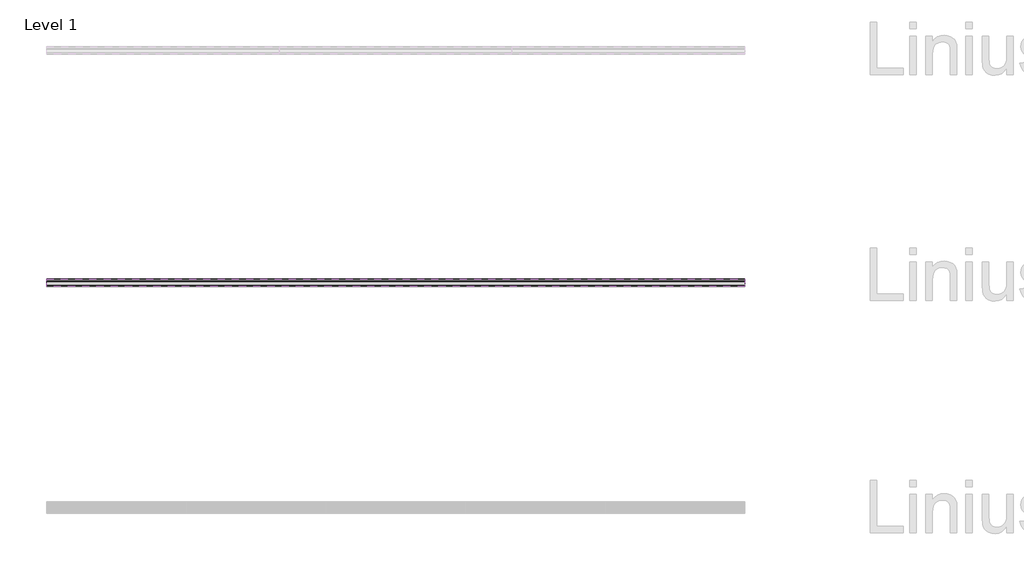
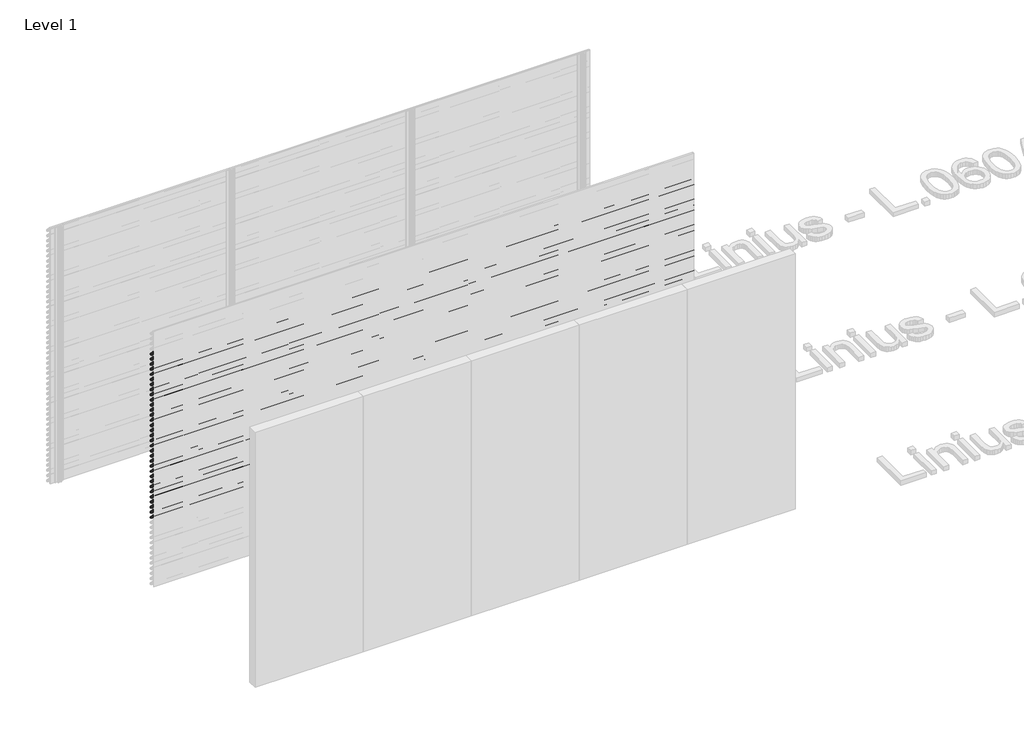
# One storey, part 32 of 153: 33 proxies.
"""IFC4 building model written with IfcOpenShell, lengths in millimetres."""

from ifc_helpers import new_model, si_unit, point, frame, frame_2d, origin, place, context, project, spatial, polyline, circle_curve, trimmed, segment, composite_curve, outline, extrude, element, save

model = new_model("IFC4")

# Units and contexts
model_context = context("Model", 3, world=origin())
ifc_project = project(units=[si_unit("LENGTHUNIT", "METRE", prefix="MILLI")], contexts=[model_context])

# Site, building, storey
site = spatial("IfcSite", under=ifc_project)
building = spatial("IfcBuilding", under=site)
storey = spatial("IfcBuildingStorey", under=building, Name="Level 1", Elevation=0.0)

# Proxies
placement = place(None, origin())
element("IfcBuildingElementProxy", 1, Name="Wall Sweeps", at=placement, inside=storey, context=model_context, shape_type="SweptSolid", body=[
    extrude(outline(composite_curve([segment(polyline([(4989.0270068, 2760.0), (5003.8471842, 2758.7034025), (5053.0270068, 2705.0102749), (5053.0270068, 2693.6108187)]), True, "CONTINUOUS"), segment(trimmed(circle_curve(frame_2d((5049.7613584, 2693.897153)), 3.2781774), [point((5053.0270068, 2693.6108187))], [point((5050.4369373, 2690.6893438))], False, "CARTESIAN"), True, "CONTINUOUS"), segment(polyline([(5050.4369373, 2690.6893438), (5038.1625655, 2691.6282758), (4989.0270068, 2745.2730773), (4989.0270068, 2760.0)]), True, "CONTINUOUS")], self_intersect=False), holes=[composite_curve([segment(polyline([(5003.1351705, 2757.2599659), (4990.5270068, 2758.3630372), (4990.5270068, 2745.856213), (5038.8681968, 2693.0786805), (5050.3042474, 2692.2038762)]), True, "CONTINUOUS"), segment(trimmed(circle_curve(frame_2d((5049.7613584, 2693.897153)), 1.7781774), [point((5050.3042474, 2692.2038762))], [point((5051.5270068, 2693.6864389))], True, "CARTESIAN"), True, "CONTINUOUS"), segment(polyline([(5051.5270068, 2693.6864389), (5051.5270068, 2704.4271392), (5003.1351705, 2757.2599659)]), True, "CONTINUOUS")], self_intersect=False)]), frame((44966.6208097, 0.0, 0.0), z_axis=(1.0, 0.0, 0.0), x_axis=(0.0, 1.0, 0.0)), (0.0, 0.0, 1.0), 6000.0),
])
element("IfcBuildingElementProxy", 2, Name="Wall Sweeps", at=placement, inside=storey, context=model_context, shape_type="SweptSolid", body=[
    extrude(outline(composite_curve([segment(polyline([(4989.0270068, 2700.0), (5003.8471842, 2698.7034025), (5053.0270068, 2645.0102749), (5053.0270068, 2633.6108187)]), True, "CONTINUOUS"), segment(trimmed(circle_curve(frame_2d((5049.7613584, 2633.897153)), 3.2781774), [point((5053.0270068, 2633.6108187))], [point((5050.4369373, 2630.6893438))], False, "CARTESIAN"), True, "CONTINUOUS"), segment(polyline([(5050.4369373, 2630.6893438), (5038.1625655, 2631.6282758), (4989.0270068, 2685.2730773), (4989.0270068, 2700.0)]), True, "CONTINUOUS")], self_intersect=False), holes=[composite_curve([segment(polyline([(5003.1351705, 2697.2599659), (4990.5270068, 2698.3630372), (4990.5270068, 2685.856213), (5038.8681968, 2633.0786805), (5050.3042474, 2632.2038762)]), True, "CONTINUOUS"), segment(trimmed(circle_curve(frame_2d((5049.7613584, 2633.897153)), 1.7781774), [point((5050.3042474, 2632.2038762))], [point((5051.5270068, 2633.6864389))], True, "CARTESIAN"), True, "CONTINUOUS"), segment(polyline([(5051.5270068, 2633.6864389), (5051.5270068, 2644.4271392), (5003.1351705, 2697.2599659)]), True, "CONTINUOUS")], self_intersect=False)]), frame((44966.6208097, 0.0, 0.0), z_axis=(1.0, 0.0, 0.0), x_axis=(0.0, 1.0, 0.0)), (0.0, 0.0, 1.0), 6000.0),
])
element("IfcBuildingElementProxy", 3, Name="Wall Sweeps", at=placement, inside=storey, context=model_context, shape_type="SweptSolid", body=[
    extrude(outline(composite_curve([segment(polyline([(4989.0270068, 2640.0), (5003.8471842, 2638.7034025), (5053.0270068, 2585.0102749), (5053.0270068, 2573.6108187)]), True, "CONTINUOUS"), segment(trimmed(circle_curve(frame_2d((5049.7613584, 2573.897153)), 3.2781774), [point((5053.0270068, 2573.6108187))], [point((5050.4369373, 2570.6893438))], False, "CARTESIAN"), True, "CONTINUOUS"), segment(polyline([(5050.4369373, 2570.6893438), (5038.1625655, 2571.6282758), (4989.0270068, 2625.2730773), (4989.0270068, 2640.0)]), True, "CONTINUOUS")], self_intersect=False), holes=[composite_curve([segment(polyline([(5003.1351705, 2637.2599659), (4990.5270068, 2638.3630372), (4990.5270068, 2625.856213), (5038.8681968, 2573.0786805), (5050.3042474, 2572.2038762)]), True, "CONTINUOUS"), segment(trimmed(circle_curve(frame_2d((5049.7613584, 2573.897153)), 1.7781774), [point((5050.3042474, 2572.2038762))], [point((5051.5270068, 2573.6864389))], True, "CARTESIAN"), True, "CONTINUOUS"), segment(polyline([(5051.5270068, 2573.6864389), (5051.5270068, 2584.4271392), (5003.1351705, 2637.2599659)]), True, "CONTINUOUS")], self_intersect=False)]), frame((44966.6208097, 0.0, 0.0), z_axis=(1.0, 0.0, 0.0), x_axis=(0.0, 1.0, 0.0)), (0.0, 0.0, 1.0), 6000.0),
])
element("IfcBuildingElementProxy", 4, Name="Wall Sweeps", at=placement, inside=storey, context=model_context, shape_type="SweptSolid", body=[
    extrude(outline(composite_curve([segment(polyline([(4989.0270068, 2580.0), (5003.8471842, 2578.7034025), (5053.0270068, 2525.0102749), (5053.0270068, 2513.6108187)]), True, "CONTINUOUS"), segment(trimmed(circle_curve(frame_2d((5049.7613584, 2513.897153)), 3.2781774), [point((5053.0270068, 2513.6108187))], [point((5050.4369373, 2510.6893438))], False, "CARTESIAN"), True, "CONTINUOUS"), segment(polyline([(5050.4369373, 2510.6893438), (5038.1625655, 2511.6282758), (4989.0270068, 2565.2730773), (4989.0270068, 2580.0)]), True, "CONTINUOUS")], self_intersect=False), holes=[composite_curve([segment(polyline([(5003.1351705, 2577.2599659), (4990.5270068, 2578.3630372), (4990.5270068, 2565.856213), (5038.8681968, 2513.0786805), (5050.3042474, 2512.2038762)]), True, "CONTINUOUS"), segment(trimmed(circle_curve(frame_2d((5049.7613584, 2513.897153)), 1.7781774), [point((5050.3042474, 2512.2038762))], [point((5051.5270068, 2513.6864389))], True, "CARTESIAN"), True, "CONTINUOUS"), segment(polyline([(5051.5270068, 2513.6864389), (5051.5270068, 2524.4271392), (5003.1351705, 2577.2599659)]), True, "CONTINUOUS")], self_intersect=False)]), frame((44966.6208097, 0.0, 0.0), z_axis=(1.0, 0.0, 0.0), x_axis=(0.0, 1.0, 0.0)), (0.0, 0.0, 1.0), 6000.0),
])
element("IfcBuildingElementProxy", 5, Name="Wall Sweeps", at=placement, inside=storey, context=model_context, shape_type="SweptSolid", body=[
    extrude(outline(composite_curve([segment(polyline([(4989.0270068, 2520.0), (5003.8471842, 2518.7034025), (5053.0270068, 2465.0102749), (5053.0270068, 2453.6108187)]), True, "CONTINUOUS"), segment(trimmed(circle_curve(frame_2d((5049.7613584, 2453.897153)), 3.2781774), [point((5053.0270068, 2453.6108187))], [point((5050.4369373, 2450.6893438))], False, "CARTESIAN"), True, "CONTINUOUS"), segment(polyline([(5050.4369373, 2450.6893438), (5038.1625655, 2451.6282758), (4989.0270068, 2505.2730773), (4989.0270068, 2520.0)]), True, "CONTINUOUS")], self_intersect=False), holes=[composite_curve([segment(polyline([(5003.1351705, 2517.2599659), (4990.5270068, 2518.3630372), (4990.5270068, 2505.856213), (5038.8681968, 2453.0786805), (5050.3042474, 2452.2038762)]), True, "CONTINUOUS"), segment(trimmed(circle_curve(frame_2d((5049.7613584, 2453.897153)), 1.7781774), [point((5050.3042474, 2452.2038762))], [point((5051.5270068, 2453.6864389))], True, "CARTESIAN"), True, "CONTINUOUS"), segment(polyline([(5051.5270068, 2453.6864389), (5051.5270068, 2464.4271392), (5003.1351705, 2517.2599659)]), True, "CONTINUOUS")], self_intersect=False)]), frame((44966.6208097, 0.0, 0.0), z_axis=(1.0, 0.0, 0.0), x_axis=(0.0, 1.0, 0.0)), (0.0, 0.0, 1.0), 6000.0),
])
element("IfcBuildingElementProxy", 6, Name="Wall Sweeps", at=placement, inside=storey, context=model_context, shape_type="SweptSolid", body=[
    extrude(outline(composite_curve([segment(polyline([(4989.0270068, 2460.0), (5003.8471842, 2458.7034025), (5053.0270068, 2405.0102749), (5053.0270068, 2393.6108187)]), True, "CONTINUOUS"), segment(trimmed(circle_curve(frame_2d((5049.7613584, 2393.897153)), 3.2781774), [point((5053.0270068, 2393.6108187))], [point((5050.4369373, 2390.6893438))], False, "CARTESIAN"), True, "CONTINUOUS"), segment(polyline([(5050.4369373, 2390.6893438), (5038.1625655, 2391.6282758), (4989.0270068, 2445.2730773), (4989.0270068, 2460.0)]), True, "CONTINUOUS")], self_intersect=False), holes=[composite_curve([segment(polyline([(5003.1351705, 2457.2599659), (4990.5270068, 2458.3630372), (4990.5270068, 2445.856213), (5038.8681968, 2393.0786805), (5050.3042474, 2392.2038762)]), True, "CONTINUOUS"), segment(trimmed(circle_curve(frame_2d((5049.7613584, 2393.897153)), 1.7781774), [point((5050.3042474, 2392.2038762))], [point((5051.5270068, 2393.6864389))], True, "CARTESIAN"), True, "CONTINUOUS"), segment(polyline([(5051.5270068, 2393.6864389), (5051.5270068, 2404.4271392), (5003.1351705, 2457.2599659)]), True, "CONTINUOUS")], self_intersect=False)]), frame((44966.6208097, 0.0, 0.0), z_axis=(1.0, 0.0, 0.0), x_axis=(0.0, 1.0, 0.0)), (0.0, 0.0, 1.0), 6000.0),
])
element("IfcBuildingElementProxy", 7, Name="Wall Sweeps", at=placement, inside=storey, context=model_context, shape_type="SweptSolid", body=[
    extrude(outline(composite_curve([segment(polyline([(4989.0270068, 2400.0), (5003.8471842, 2398.7034025), (5053.0270068, 2345.0102749), (5053.0270068, 2333.6108187)]), True, "CONTINUOUS"), segment(trimmed(circle_curve(frame_2d((5049.7613584, 2333.897153)), 3.2781774), [point((5053.0270068, 2333.6108187))], [point((5050.4369373, 2330.6893438))], False, "CARTESIAN"), True, "CONTINUOUS"), segment(polyline([(5050.4369373, 2330.6893438), (5038.1625655, 2331.6282758), (4989.0270068, 2385.2730773), (4989.0270068, 2400.0)]), True, "CONTINUOUS")], self_intersect=False), holes=[composite_curve([segment(polyline([(5003.1351705, 2397.2599659), (4990.5270068, 2398.3630372), (4990.5270068, 2385.856213), (5038.8681968, 2333.0786805), (5050.3042474, 2332.2038762)]), True, "CONTINUOUS"), segment(trimmed(circle_curve(frame_2d((5049.7613584, 2333.897153)), 1.7781774), [point((5050.3042474, 2332.2038762))], [point((5051.5270068, 2333.6864389))], True, "CARTESIAN"), True, "CONTINUOUS"), segment(polyline([(5051.5270068, 2333.6864389), (5051.5270068, 2344.4271392), (5003.1351705, 2397.2599659)]), True, "CONTINUOUS")], self_intersect=False)]), frame((44966.6208097, 0.0, 0.0), z_axis=(1.0, 0.0, 0.0), x_axis=(0.0, 1.0, 0.0)), (0.0, 0.0, 1.0), 6000.0),
])
element("IfcBuildingElementProxy", 8, Name="Wall Sweeps", at=placement, inside=storey, context=model_context, shape_type="SweptSolid", body=[
    extrude(outline(composite_curve([segment(polyline([(4989.0270068, 2340.0), (5003.8471842, 2338.7034025), (5053.0270068, 2285.0102749), (5053.0270068, 2273.6108187)]), True, "CONTINUOUS"), segment(trimmed(circle_curve(frame_2d((5049.7613584, 2273.897153)), 3.2781774), [point((5053.0270068, 2273.6108187))], [point((5050.4369373, 2270.6893438))], False, "CARTESIAN"), True, "CONTINUOUS"), segment(polyline([(5050.4369373, 2270.6893438), (5038.1625655, 2271.6282758), (4989.0270068, 2325.2730773), (4989.0270068, 2340.0)]), True, "CONTINUOUS")], self_intersect=False), holes=[composite_curve([segment(polyline([(5003.1351705, 2337.2599659), (4990.5270068, 2338.3630372), (4990.5270068, 2325.856213), (5038.8681968, 2273.0786805), (5050.3042474, 2272.2038762)]), True, "CONTINUOUS"), segment(trimmed(circle_curve(frame_2d((5049.7613584, 2273.897153)), 1.7781774), [point((5050.3042474, 2272.2038762))], [point((5051.5270068, 2273.6864389))], True, "CARTESIAN"), True, "CONTINUOUS"), segment(polyline([(5051.5270068, 2273.6864389), (5051.5270068, 2284.4271392), (5003.1351705, 2337.2599659)]), True, "CONTINUOUS")], self_intersect=False)]), frame((44966.6208097, 0.0, 0.0), z_axis=(1.0, 0.0, 0.0), x_axis=(0.0, 1.0, 0.0)), (0.0, 0.0, 1.0), 6000.0),
])
element("IfcBuildingElementProxy", 9, Name="Wall Sweeps", at=placement, inside=storey, context=model_context, shape_type="SweptSolid", body=[
    extrude(outline(composite_curve([segment(polyline([(4989.0270068, 2280.0), (5003.8471842, 2278.7034025), (5053.0270068, 2225.0102749), (5053.0270068, 2213.6108187)]), True, "CONTINUOUS"), segment(trimmed(circle_curve(frame_2d((5049.7613584, 2213.897153)), 3.2781774), [point((5053.0270068, 2213.6108187))], [point((5050.4369373, 2210.6893438))], False, "CARTESIAN"), True, "CONTINUOUS"), segment(polyline([(5050.4369373, 2210.6893438), (5038.1625655, 2211.6282758), (4989.0270068, 2265.2730773), (4989.0270068, 2280.0)]), True, "CONTINUOUS")], self_intersect=False), holes=[composite_curve([segment(polyline([(5003.1351705, 2277.2599659), (4990.5270068, 2278.3630372), (4990.5270068, 2265.856213), (5038.8681968, 2213.0786805), (5050.3042474, 2212.2038762)]), True, "CONTINUOUS"), segment(trimmed(circle_curve(frame_2d((5049.7613584, 2213.897153)), 1.7781774), [point((5050.3042474, 2212.2038762))], [point((5051.5270068, 2213.6864389))], True, "CARTESIAN"), True, "CONTINUOUS"), segment(polyline([(5051.5270068, 2213.6864389), (5051.5270068, 2224.4271392), (5003.1351705, 2277.2599659)]), True, "CONTINUOUS")], self_intersect=False)]), frame((44966.6208097, 0.0, 0.0), z_axis=(1.0, 0.0, 0.0), x_axis=(0.0, 1.0, 0.0)), (0.0, 0.0, 1.0), 6000.0),
])
element("IfcBuildingElementProxy", 10, Name="Wall Sweeps", at=placement, inside=storey, context=model_context, shape_type="SweptSolid", body=[
    extrude(outline(composite_curve([segment(polyline([(4989.0270068, 2220.0), (5003.8471842, 2218.7034025), (5053.0270068, 2165.0102749), (5053.0270068, 2153.6108187)]), True, "CONTINUOUS"), segment(trimmed(circle_curve(frame_2d((5049.7613584, 2153.897153)), 3.2781774), [point((5053.0270068, 2153.6108187))], [point((5050.4369373, 2150.6893438))], False, "CARTESIAN"), True, "CONTINUOUS"), segment(polyline([(5050.4369373, 2150.6893438), (5038.1625655, 2151.6282758), (4989.0270068, 2205.2730773), (4989.0270068, 2220.0)]), True, "CONTINUOUS")], self_intersect=False), holes=[composite_curve([segment(polyline([(5003.1351705, 2217.2599659), (4990.5270068, 2218.3630372), (4990.5270068, 2205.856213), (5038.8681968, 2153.0786805), (5050.3042474, 2152.2038762)]), True, "CONTINUOUS"), segment(trimmed(circle_curve(frame_2d((5049.7613584, 2153.897153)), 1.7781774), [point((5050.3042474, 2152.2038762))], [point((5051.5270068, 2153.6864389))], True, "CARTESIAN"), True, "CONTINUOUS"), segment(polyline([(5051.5270068, 2153.6864389), (5051.5270068, 2164.4271392), (5003.1351705, 2217.2599659)]), True, "CONTINUOUS")], self_intersect=False)]), frame((44966.6208097, 0.0, 0.0), z_axis=(1.0, 0.0, 0.0), x_axis=(0.0, 1.0, 0.0)), (0.0, 0.0, 1.0), 6000.0),
])
element("IfcBuildingElementProxy", 11, Name="Wall Sweeps", at=placement, inside=storey, context=model_context, shape_type="SweptSolid", body=[
    extrude(outline(composite_curve([segment(polyline([(4989.0270068, 2160.0), (5003.8471842, 2158.7034025), (5053.0270068, 2105.0102749), (5053.0270068, 2093.6108187)]), True, "CONTINUOUS"), segment(trimmed(circle_curve(frame_2d((5049.7613584, 2093.897153)), 3.2781774), [point((5053.0270068, 2093.6108187))], [point((5050.4369373, 2090.6893438))], False, "CARTESIAN"), True, "CONTINUOUS"), segment(polyline([(5050.4369373, 2090.6893438), (5038.1625655, 2091.6282758), (4989.0270068, 2145.2730773), (4989.0270068, 2160.0)]), True, "CONTINUOUS")], self_intersect=False), holes=[composite_curve([segment(polyline([(5003.1351705, 2157.2599659), (4990.5270068, 2158.3630372), (4990.5270068, 2145.856213), (5038.8681968, 2093.0786805), (5050.3042474, 2092.2038762)]), True, "CONTINUOUS"), segment(trimmed(circle_curve(frame_2d((5049.7613584, 2093.897153)), 1.7781774), [point((5050.3042474, 2092.2038762))], [point((5051.5270068, 2093.6864389))], True, "CARTESIAN"), True, "CONTINUOUS"), segment(polyline([(5051.5270068, 2093.6864389), (5051.5270068, 2104.4271392), (5003.1351705, 2157.2599659)]), True, "CONTINUOUS")], self_intersect=False)]), frame((44966.6208097, 0.0, 0.0), z_axis=(1.0, 0.0, 0.0), x_axis=(0.0, 1.0, 0.0)), (0.0, 0.0, 1.0), 6000.0),
])
element("IfcBuildingElementProxy", 12, Name="Wall Sweeps", at=placement, inside=storey, context=model_context, shape_type="SweptSolid", body=[
    extrude(outline(composite_curve([segment(polyline([(4989.0270068, 2100.0), (5003.8471842, 2098.7034025), (5053.0270068, 2045.0102749), (5053.0270068, 2033.6108187)]), True, "CONTINUOUS"), segment(trimmed(circle_curve(frame_2d((5049.7613584, 2033.897153)), 3.2781774), [point((5053.0270068, 2033.6108187))], [point((5050.4369373, 2030.6893438))], False, "CARTESIAN"), True, "CONTINUOUS"), segment(polyline([(5050.4369373, 2030.6893438), (5038.1625655, 2031.6282758), (4989.0270068, 2085.2730773), (4989.0270068, 2100.0)]), True, "CONTINUOUS")], self_intersect=False), holes=[composite_curve([segment(polyline([(5003.1351705, 2097.2599659), (4990.5270068, 2098.3630372), (4990.5270068, 2085.856213), (5038.8681968, 2033.0786805), (5050.3042474, 2032.2038762)]), True, "CONTINUOUS"), segment(trimmed(circle_curve(frame_2d((5049.7613584, 2033.897153)), 1.7781774), [point((5050.3042474, 2032.2038762))], [point((5051.5270068, 2033.6864389))], True, "CARTESIAN"), True, "CONTINUOUS"), segment(polyline([(5051.5270068, 2033.6864389), (5051.5270068, 2044.4271392), (5003.1351705, 2097.2599659)]), True, "CONTINUOUS")], self_intersect=False)]), frame((44966.6208097, 0.0, 0.0), z_axis=(1.0, 0.0, 0.0), x_axis=(0.0, 1.0, 0.0)), (0.0, 0.0, 1.0), 6000.0),
])
element("IfcBuildingElementProxy", 13, Name="Wall Sweeps", at=placement, inside=storey, context=model_context, shape_type="SweptSolid", body=[
    extrude(outline(composite_curve([segment(polyline([(4989.0270068, 2040.0), (5003.8471842, 2038.7034025), (5053.0270068, 1985.0102749), (5053.0270068, 1973.6108187)]), True, "CONTINUOUS"), segment(trimmed(circle_curve(frame_2d((5049.7613584, 1973.897153)), 3.2781774), [point((5053.0270068, 1973.6108187))], [point((5050.4369373, 1970.6893438))], False, "CARTESIAN"), True, "CONTINUOUS"), segment(polyline([(5050.4369373, 1970.6893438), (5038.1625655, 1971.6282758), (4989.0270068, 2025.2730773), (4989.0270068, 2040.0)]), True, "CONTINUOUS")], self_intersect=False), holes=[composite_curve([segment(polyline([(5003.1351705, 2037.2599659), (4990.5270068, 2038.3630372), (4990.5270068, 2025.856213), (5038.8681968, 1973.0786805), (5050.3042474, 1972.2038762)]), True, "CONTINUOUS"), segment(trimmed(circle_curve(frame_2d((5049.7613584, 1973.897153)), 1.7781774), [point((5050.3042474, 1972.2038762))], [point((5051.5270068, 1973.6864389))], True, "CARTESIAN"), True, "CONTINUOUS"), segment(polyline([(5051.5270068, 1973.6864389), (5051.5270068, 1984.4271392), (5003.1351705, 2037.2599659)]), True, "CONTINUOUS")], self_intersect=False)]), frame((44966.6208097, 0.0, 0.0), z_axis=(1.0, 0.0, 0.0), x_axis=(0.0, 1.0, 0.0)), (0.0, 0.0, 1.0), 6000.0),
])
element("IfcBuildingElementProxy", 14, Name="Wall Sweeps", at=placement, inside=storey, context=model_context, shape_type="SweptSolid", body=[
    extrude(outline(composite_curve([segment(polyline([(4989.0270068, 1980.0), (5003.8471842, 1978.7034025), (5053.0270068, 1925.0102749), (5053.0270068, 1913.6108187)]), True, "CONTINUOUS"), segment(trimmed(circle_curve(frame_2d((5049.7613584, 1913.897153)), 3.2781774), [point((5053.0270068, 1913.6108187))], [point((5050.4369373, 1910.6893438))], False, "CARTESIAN"), True, "CONTINUOUS"), segment(polyline([(5050.4369373, 1910.6893438), (5038.1625655, 1911.6282758), (4989.0270068, 1965.2730773), (4989.0270068, 1980.0)]), True, "CONTINUOUS")], self_intersect=False), holes=[composite_curve([segment(polyline([(5003.1351705, 1977.2599659), (4990.5270068, 1978.3630372), (4990.5270068, 1965.856213), (5038.8681968, 1913.0786805), (5050.3042474, 1912.2038762)]), True, "CONTINUOUS"), segment(trimmed(circle_curve(frame_2d((5049.7613584, 1913.897153)), 1.7781774), [point((5050.3042474, 1912.2038762))], [point((5051.5270068, 1913.6864389))], True, "CARTESIAN"), True, "CONTINUOUS"), segment(polyline([(5051.5270068, 1913.6864389), (5051.5270068, 1924.4271392), (5003.1351705, 1977.2599659)]), True, "CONTINUOUS")], self_intersect=False)]), frame((44966.6208097, 0.0, 0.0), z_axis=(1.0, 0.0, 0.0), x_axis=(0.0, 1.0, 0.0)), (0.0, 0.0, 1.0), 6000.0),
])
element("IfcBuildingElementProxy", 15, Name="Wall Sweeps", at=placement, inside=storey, context=model_context, shape_type="SweptSolid", body=[
    extrude(outline(composite_curve([segment(polyline([(4989.0270068, 1920.0), (5003.8471842, 1918.7034025), (5053.0270068, 1865.0102749), (5053.0270068, 1853.6108187)]), True, "CONTINUOUS"), segment(trimmed(circle_curve(frame_2d((5049.7613584, 1853.897153)), 3.2781774), [point((5053.0270068, 1853.6108187))], [point((5050.4369373, 1850.6893438))], False, "CARTESIAN"), True, "CONTINUOUS"), segment(polyline([(5050.4369373, 1850.6893438), (5038.1625655, 1851.6282758), (4989.0270068, 1905.2730773), (4989.0270068, 1920.0)]), True, "CONTINUOUS")], self_intersect=False), holes=[composite_curve([segment(polyline([(5003.1351705, 1917.2599659), (4990.5270068, 1918.3630372), (4990.5270068, 1905.856213), (5038.8681968, 1853.0786805), (5050.3042474, 1852.2038762)]), True, "CONTINUOUS"), segment(trimmed(circle_curve(frame_2d((5049.7613584, 1853.897153)), 1.7781774), [point((5050.3042474, 1852.2038762))], [point((5051.5270068, 1853.6864389))], True, "CARTESIAN"), True, "CONTINUOUS"), segment(polyline([(5051.5270068, 1853.6864389), (5051.5270068, 1864.4271392), (5003.1351705, 1917.2599659)]), True, "CONTINUOUS")], self_intersect=False)]), frame((44966.6208097, 0.0, 0.0), z_axis=(1.0, 0.0, 0.0), x_axis=(0.0, 1.0, 0.0)), (0.0, 0.0, 1.0), 6000.0),
])
element("IfcBuildingElementProxy", 16, Name="Wall Sweeps", at=placement, inside=storey, context=model_context, shape_type="SweptSolid", body=[
    extrude(outline(composite_curve([segment(polyline([(4989.0270068, 1860.0), (5003.8471842, 1858.7034025), (5053.0270068, 1805.0102749), (5053.0270068, 1793.6108187)]), True, "CONTINUOUS"), segment(trimmed(circle_curve(frame_2d((5049.7613584, 1793.897153)), 3.2781774), [point((5053.0270068, 1793.6108187))], [point((5050.4369373, 1790.6893438))], False, "CARTESIAN"), True, "CONTINUOUS"), segment(polyline([(5050.4369373, 1790.6893438), (5038.1625655, 1791.6282758), (4989.0270068, 1845.2730773), (4989.0270068, 1860.0)]), True, "CONTINUOUS")], self_intersect=False), holes=[composite_curve([segment(polyline([(5003.1351705, 1857.2599659), (4990.5270068, 1858.3630372), (4990.5270068, 1845.856213), (5038.8681968, 1793.0786805), (5050.3042474, 1792.2038762)]), True, "CONTINUOUS"), segment(trimmed(circle_curve(frame_2d((5049.7613584, 1793.897153)), 1.7781774), [point((5050.3042474, 1792.2038762))], [point((5051.5270068, 1793.6864389))], True, "CARTESIAN"), True, "CONTINUOUS"), segment(polyline([(5051.5270068, 1793.6864389), (5051.5270068, 1804.4271392), (5003.1351705, 1857.2599659)]), True, "CONTINUOUS")], self_intersect=False)]), frame((44966.6208097, 0.0, 0.0), z_axis=(1.0, 0.0, 0.0), x_axis=(0.0, 1.0, 0.0)), (0.0, 0.0, 1.0), 6000.0),
])
element("IfcBuildingElementProxy", 17, Name="Wall Sweeps", at=placement, inside=storey, context=model_context, shape_type="SweptSolid", body=[
    extrude(outline(composite_curve([segment(polyline([(4989.0270068, 1800.0), (5003.8471842, 1798.7034025), (5053.0270068, 1745.0102749), (5053.0270068, 1733.6108187)]), True, "CONTINUOUS"), segment(trimmed(circle_curve(frame_2d((5049.7613584, 1733.897153)), 3.2781774), [point((5053.0270068, 1733.6108187))], [point((5050.4369373, 1730.6893438))], False, "CARTESIAN"), True, "CONTINUOUS"), segment(polyline([(5050.4369373, 1730.6893438), (5038.1625655, 1731.6282758), (4989.0270068, 1785.2730773), (4989.0270068, 1800.0)]), True, "CONTINUOUS")], self_intersect=False), holes=[composite_curve([segment(polyline([(5003.1351705, 1797.2599659), (4990.5270068, 1798.3630372), (4990.5270068, 1785.856213), (5038.8681968, 1733.0786805), (5050.3042474, 1732.2038762)]), True, "CONTINUOUS"), segment(trimmed(circle_curve(frame_2d((5049.7613584, 1733.897153)), 1.7781774), [point((5050.3042474, 1732.2038762))], [point((5051.5270068, 1733.6864389))], True, "CARTESIAN"), True, "CONTINUOUS"), segment(polyline([(5051.5270068, 1733.6864389), (5051.5270068, 1744.4271392), (5003.1351705, 1797.2599659)]), True, "CONTINUOUS")], self_intersect=False)]), frame((44966.6208097, 0.0, 0.0), z_axis=(1.0, 0.0, 0.0), x_axis=(0.0, 1.0, 0.0)), (0.0, 0.0, 1.0), 6000.0),
])
element("IfcBuildingElementProxy", 18, Name="Wall Sweeps", at=placement, inside=storey, context=model_context, shape_type="SweptSolid", body=[
    extrude(outline(composite_curve([segment(polyline([(4989.0270068, 1740.0), (5003.8471842, 1738.7034025), (5053.0270068, 1685.0102749), (5053.0270068, 1673.6108187)]), True, "CONTINUOUS"), segment(trimmed(circle_curve(frame_2d((5049.7613584, 1673.897153)), 3.2781774), [point((5053.0270068, 1673.6108187))], [point((5050.4369373, 1670.6893438))], False, "CARTESIAN"), True, "CONTINUOUS"), segment(polyline([(5050.4369373, 1670.6893438), (5038.1625655, 1671.6282758), (4989.0270068, 1725.2730773), (4989.0270068, 1740.0)]), True, "CONTINUOUS")], self_intersect=False), holes=[composite_curve([segment(polyline([(5003.1351705, 1737.2599659), (4990.5270068, 1738.3630372), (4990.5270068, 1725.856213), (5038.8681968, 1673.0786805), (5050.3042474, 1672.2038762)]), True, "CONTINUOUS"), segment(trimmed(circle_curve(frame_2d((5049.7613584, 1673.897153)), 1.7781774), [point((5050.3042474, 1672.2038762))], [point((5051.5270068, 1673.6864389))], True, "CARTESIAN"), True, "CONTINUOUS"), segment(polyline([(5051.5270068, 1673.6864389), (5051.5270068, 1684.4271392), (5003.1351705, 1737.2599659)]), True, "CONTINUOUS")], self_intersect=False)]), frame((44966.6208097, 0.0, 0.0), z_axis=(1.0, 0.0, 0.0), x_axis=(0.0, 1.0, 0.0)), (0.0, 0.0, 1.0), 6000.0),
])
element("IfcBuildingElementProxy", 19, Name="Wall Sweeps", at=placement, inside=storey, context=model_context, shape_type="SweptSolid", body=[
    extrude(outline(composite_curve([segment(polyline([(4989.0270068, 1680.0), (5003.8471842, 1678.7034025), (5053.0270068, 1625.0102749), (5053.0270068, 1613.6108187)]), True, "CONTINUOUS"), segment(trimmed(circle_curve(frame_2d((5049.7613584, 1613.897153)), 3.2781774), [point((5053.0270068, 1613.6108187))], [point((5050.4369373, 1610.6893438))], False, "CARTESIAN"), True, "CONTINUOUS"), segment(polyline([(5050.4369373, 1610.6893438), (5038.1625655, 1611.6282758), (4989.0270068, 1665.2730773), (4989.0270068, 1680.0)]), True, "CONTINUOUS")], self_intersect=False), holes=[composite_curve([segment(polyline([(5003.1351705, 1677.2599659), (4990.5270068, 1678.3630372), (4990.5270068, 1665.856213), (5038.8681968, 1613.0786805), (5050.3042474, 1612.2038762)]), True, "CONTINUOUS"), segment(trimmed(circle_curve(frame_2d((5049.7613584, 1613.897153)), 1.7781774), [point((5050.3042474, 1612.2038762))], [point((5051.5270068, 1613.6864389))], True, "CARTESIAN"), True, "CONTINUOUS"), segment(polyline([(5051.5270068, 1613.6864389), (5051.5270068, 1624.4271392), (5003.1351705, 1677.2599659)]), True, "CONTINUOUS")], self_intersect=False)]), frame((44966.6208097, 0.0, 0.0), z_axis=(1.0, 0.0, 0.0), x_axis=(0.0, 1.0, 0.0)), (0.0, 0.0, 1.0), 6000.0),
])
element("IfcBuildingElementProxy", 20, Name="Wall Sweeps", at=placement, inside=storey, context=model_context, shape_type="SweptSolid", body=[
    extrude(outline(composite_curve([segment(polyline([(4989.0270068, 1620.0), (5003.8471842, 1618.7034025), (5053.0270068, 1565.0102749), (5053.0270068, 1553.6108187)]), True, "CONTINUOUS"), segment(trimmed(circle_curve(frame_2d((5049.7613584, 1553.897153)), 3.2781774), [point((5053.0270068, 1553.6108187))], [point((5050.4369373, 1550.6893438))], False, "CARTESIAN"), True, "CONTINUOUS"), segment(polyline([(5050.4369373, 1550.6893438), (5038.1625655, 1551.6282758), (4989.0270068, 1605.2730773), (4989.0270068, 1620.0)]), True, "CONTINUOUS")], self_intersect=False), holes=[composite_curve([segment(polyline([(5003.1351705, 1617.2599659), (4990.5270068, 1618.3630372), (4990.5270068, 1605.856213), (5038.8681968, 1553.0786805), (5050.3042474, 1552.2038762)]), True, "CONTINUOUS"), segment(trimmed(circle_curve(frame_2d((5049.7613584, 1553.897153)), 1.7781774), [point((5050.3042474, 1552.2038762))], [point((5051.5270068, 1553.6864389))], True, "CARTESIAN"), True, "CONTINUOUS"), segment(polyline([(5051.5270068, 1553.6864389), (5051.5270068, 1564.4271392), (5003.1351705, 1617.2599659)]), True, "CONTINUOUS")], self_intersect=False)]), frame((44966.6208097, 0.0, 0.0), z_axis=(1.0, 0.0, 0.0), x_axis=(0.0, 1.0, 0.0)), (0.0, 0.0, 1.0), 6000.0),
])
element("IfcBuildingElementProxy", 21, Name="Wall Sweeps", at=placement, inside=storey, context=model_context, shape_type="SweptSolid", body=[
    extrude(outline(composite_curve([segment(polyline([(4989.0270068, 1560.0), (5003.8471842, 1558.7034025), (5053.0270068, 1505.0102749), (5053.0270068, 1493.6108187)]), True, "CONTINUOUS"), segment(trimmed(circle_curve(frame_2d((5049.7613584, 1493.897153)), 3.2781774), [point((5053.0270068, 1493.6108187))], [point((5050.4369373, 1490.6893438))], False, "CARTESIAN"), True, "CONTINUOUS"), segment(polyline([(5050.4369373, 1490.6893438), (5038.1625655, 1491.6282758), (4989.0270068, 1545.2730773), (4989.0270068, 1560.0)]), True, "CONTINUOUS")], self_intersect=False), holes=[composite_curve([segment(polyline([(5003.1351705, 1557.2599659), (4990.5270068, 1558.3630372), (4990.5270068, 1545.856213), (5038.8681968, 1493.0786805), (5050.3042474, 1492.2038762)]), True, "CONTINUOUS"), segment(trimmed(circle_curve(frame_2d((5049.7613584, 1493.897153)), 1.7781774), [point((5050.3042474, 1492.2038762))], [point((5051.5270068, 1493.6864389))], True, "CARTESIAN"), True, "CONTINUOUS"), segment(polyline([(5051.5270068, 1493.6864389), (5051.5270068, 1504.4271392), (5003.1351705, 1557.2599659)]), True, "CONTINUOUS")], self_intersect=False)]), frame((44966.6208097, 0.0, 0.0), z_axis=(1.0, 0.0, 0.0), x_axis=(0.0, 1.0, 0.0)), (0.0, 0.0, 1.0), 6000.0),
])
element("IfcBuildingElementProxy", 22, Name="Wall Sweeps", at=placement, inside=storey, context=model_context, shape_type="SweptSolid", body=[
    extrude(outline(composite_curve([segment(polyline([(4989.0270068, 1500.0), (5003.8471842, 1498.7034025), (5053.0270068, 1445.0102749), (5053.0270068, 1433.6108187)]), True, "CONTINUOUS"), segment(trimmed(circle_curve(frame_2d((5049.7613584, 1433.897153)), 3.2781774), [point((5053.0270068, 1433.6108187))], [point((5050.4369373, 1430.6893438))], False, "CARTESIAN"), True, "CONTINUOUS"), segment(polyline([(5050.4369373, 1430.6893438), (5038.1625655, 1431.6282758), (4989.0270068, 1485.2730773), (4989.0270068, 1500.0)]), True, "CONTINUOUS")], self_intersect=False), holes=[composite_curve([segment(polyline([(5003.1351705, 1497.2599659), (4990.5270068, 1498.3630372), (4990.5270068, 1485.856213), (5038.8681968, 1433.0786805), (5050.3042474, 1432.2038762)]), True, "CONTINUOUS"), segment(trimmed(circle_curve(frame_2d((5049.7613584, 1433.897153)), 1.7781774), [point((5050.3042474, 1432.2038762))], [point((5051.5270068, 1433.6864389))], True, "CARTESIAN"), True, "CONTINUOUS"), segment(polyline([(5051.5270068, 1433.6864389), (5051.5270068, 1444.4271392), (5003.1351705, 1497.2599659)]), True, "CONTINUOUS")], self_intersect=False)]), frame((44966.6208097, 0.0, 0.0), z_axis=(1.0, 0.0, 0.0), x_axis=(0.0, 1.0, 0.0)), (0.0, 0.0, 1.0), 6000.0),
])
element("IfcBuildingElementProxy", 23, Name="Wall Sweeps", at=placement, inside=storey, context=model_context, shape_type="SweptSolid", body=[
    extrude(outline(composite_curve([segment(polyline([(4989.0270068, 1440.0), (5003.8471842, 1438.7034025), (5053.0270068, 1385.0102749), (5053.0270068, 1373.6108187)]), True, "CONTINUOUS"), segment(trimmed(circle_curve(frame_2d((5049.7613584, 1373.897153)), 3.2781774), [point((5053.0270068, 1373.6108187))], [point((5050.4369373, 1370.6893438))], False, "CARTESIAN"), True, "CONTINUOUS"), segment(polyline([(5050.4369373, 1370.6893438), (5038.1625655, 1371.6282758), (4989.0270068, 1425.2730773), (4989.0270068, 1440.0)]), True, "CONTINUOUS")], self_intersect=False), holes=[composite_curve([segment(polyline([(5003.1351705, 1437.2599659), (4990.5270068, 1438.3630372), (4990.5270068, 1425.856213), (5038.8681968, 1373.0786805), (5050.3042474, 1372.2038762)]), True, "CONTINUOUS"), segment(trimmed(circle_curve(frame_2d((5049.7613584, 1373.897153)), 1.7781774), [point((5050.3042474, 1372.2038762))], [point((5051.5270068, 1373.6864389))], True, "CARTESIAN"), True, "CONTINUOUS"), segment(polyline([(5051.5270068, 1373.6864389), (5051.5270068, 1384.4271392), (5003.1351705, 1437.2599659)]), True, "CONTINUOUS")], self_intersect=False)]), frame((44966.6208097, 0.0, 0.0), z_axis=(1.0, 0.0, 0.0), x_axis=(0.0, 1.0, 0.0)), (0.0, 0.0, 1.0), 6000.0),
])
element("IfcBuildingElementProxy", 24, Name="Wall Sweeps", at=placement, inside=storey, context=model_context, shape_type="SweptSolid", body=[
    extrude(outline(composite_curve([segment(polyline([(4989.0270068, 1380.0), (5003.8471842, 1378.7034025), (5053.0270068, 1325.0102749), (5053.0270068, 1313.6108187)]), True, "CONTINUOUS"), segment(trimmed(circle_curve(frame_2d((5049.7613584, 1313.897153)), 3.2781774), [point((5053.0270068, 1313.6108187))], [point((5050.4369373, 1310.6893438))], False, "CARTESIAN"), True, "CONTINUOUS"), segment(polyline([(5050.4369373, 1310.6893438), (5038.1625655, 1311.6282758), (4989.0270068, 1365.2730773), (4989.0270068, 1380.0)]), True, "CONTINUOUS")], self_intersect=False), holes=[composite_curve([segment(polyline([(5003.1351705, 1377.2599659), (4990.5270068, 1378.3630372), (4990.5270068, 1365.856213), (5038.8681968, 1313.0786805), (5050.3042474, 1312.2038762)]), True, "CONTINUOUS"), segment(trimmed(circle_curve(frame_2d((5049.7613584, 1313.897153)), 1.7781774), [point((5050.3042474, 1312.2038762))], [point((5051.5270068, 1313.6864389))], True, "CARTESIAN"), True, "CONTINUOUS"), segment(polyline([(5051.5270068, 1313.6864389), (5051.5270068, 1324.4271392), (5003.1351705, 1377.2599659)]), True, "CONTINUOUS")], self_intersect=False)]), frame((44966.6208097, 0.0, 0.0), z_axis=(1.0, 0.0, 0.0), x_axis=(0.0, 1.0, 0.0)), (0.0, 0.0, 1.0), 6000.0),
])
element("IfcBuildingElementProxy", 25, Name="Wall Sweeps", at=placement, inside=storey, context=model_context, shape_type="SweptSolid", body=[
    extrude(outline(composite_curve([segment(polyline([(4989.0270068, 1320.0), (5003.8471842, 1318.7034025), (5053.0270068, 1265.0102749), (5053.0270068, 1253.6108187)]), True, "CONTINUOUS"), segment(trimmed(circle_curve(frame_2d((5049.7613584, 1253.897153)), 3.2781774), [point((5053.0270068, 1253.6108187))], [point((5050.4369373, 1250.6893438))], False, "CARTESIAN"), True, "CONTINUOUS"), segment(polyline([(5050.4369373, 1250.6893438), (5038.1625655, 1251.6282758), (4989.0270068, 1305.2730773), (4989.0270068, 1320.0)]), True, "CONTINUOUS")], self_intersect=False), holes=[composite_curve([segment(polyline([(5003.1351705, 1317.2599659), (4990.5270068, 1318.3630372), (4990.5270068, 1305.856213), (5038.8681968, 1253.0786805), (5050.3042474, 1252.2038762)]), True, "CONTINUOUS"), segment(trimmed(circle_curve(frame_2d((5049.7613584, 1253.897153)), 1.7781774), [point((5050.3042474, 1252.2038762))], [point((5051.5270068, 1253.6864389))], True, "CARTESIAN"), True, "CONTINUOUS"), segment(polyline([(5051.5270068, 1253.6864389), (5051.5270068, 1264.4271392), (5003.1351705, 1317.2599659)]), True, "CONTINUOUS")], self_intersect=False)]), frame((44966.6208097, 0.0, 0.0), z_axis=(1.0, 0.0, 0.0), x_axis=(0.0, 1.0, 0.0)), (0.0, 0.0, 1.0), 6000.0),
])
element("IfcBuildingElementProxy", 26, Name="Wall Sweeps", at=placement, inside=storey, context=model_context, shape_type="SweptSolid", body=[
    extrude(outline(composite_curve([segment(polyline([(4989.0270068, 1260.0), (5003.8471842, 1258.7034025), (5053.0270068, 1205.0102749), (5053.0270068, 1193.6108187)]), True, "CONTINUOUS"), segment(trimmed(circle_curve(frame_2d((5049.7613584, 1193.897153)), 3.2781774), [point((5053.0270068, 1193.6108187))], [point((5050.4369373, 1190.6893438))], False, "CARTESIAN"), True, "CONTINUOUS"), segment(polyline([(5050.4369373, 1190.6893438), (5038.1625655, 1191.6282758), (4989.0270068, 1245.2730773), (4989.0270068, 1260.0)]), True, "CONTINUOUS")], self_intersect=False), holes=[composite_curve([segment(polyline([(5003.1351705, 1257.2599659), (4990.5270068, 1258.3630372), (4990.5270068, 1245.856213), (5038.8681968, 1193.0786805), (5050.3042474, 1192.2038762)]), True, "CONTINUOUS"), segment(trimmed(circle_curve(frame_2d((5049.7613584, 1193.897153)), 1.7781774), [point((5050.3042474, 1192.2038762))], [point((5051.5270068, 1193.6864389))], True, "CARTESIAN"), True, "CONTINUOUS"), segment(polyline([(5051.5270068, 1193.6864389), (5051.5270068, 1204.4271392), (5003.1351705, 1257.2599659)]), True, "CONTINUOUS")], self_intersect=False)]), frame((44966.6208097, 0.0, 0.0), z_axis=(1.0, 0.0, 0.0), x_axis=(0.0, 1.0, 0.0)), (0.0, 0.0, 1.0), 6000.0),
])
element("IfcBuildingElementProxy", 27, Name="Wall Sweeps", at=placement, inside=storey, context=model_context, shape_type="SweptSolid", body=[
    extrude(outline(composite_curve([segment(polyline([(4989.0270068, 1200.0), (5003.8471842, 1198.7034025), (5053.0270068, 1145.0102749), (5053.0270068, 1133.6108187)]), True, "CONTINUOUS"), segment(trimmed(circle_curve(frame_2d((5049.7613584, 1133.897153)), 3.2781774), [point((5053.0270068, 1133.6108187))], [point((5050.4369373, 1130.6893438))], False, "CARTESIAN"), True, "CONTINUOUS"), segment(polyline([(5050.4369373, 1130.6893438), (5038.1625655, 1131.6282758), (4989.0270068, 1185.2730773), (4989.0270068, 1200.0)]), True, "CONTINUOUS")], self_intersect=False), holes=[composite_curve([segment(polyline([(5003.1351705, 1197.2599659), (4990.5270068, 1198.3630372), (4990.5270068, 1185.856213), (5038.8681968, 1133.0786805), (5050.3042474, 1132.2038762)]), True, "CONTINUOUS"), segment(trimmed(circle_curve(frame_2d((5049.7613584, 1133.897153)), 1.7781774), [point((5050.3042474, 1132.2038762))], [point((5051.5270068, 1133.6864389))], True, "CARTESIAN"), True, "CONTINUOUS"), segment(polyline([(5051.5270068, 1133.6864389), (5051.5270068, 1144.4271392), (5003.1351705, 1197.2599659)]), True, "CONTINUOUS")], self_intersect=False)]), frame((44966.6208097, 0.0, 0.0), z_axis=(1.0, 0.0, 0.0), x_axis=(0.0, 1.0, 0.0)), (0.0, 0.0, 1.0), 6000.0),
])
element("IfcBuildingElementProxy", 28, Name="Wall Sweeps", at=placement, inside=storey, context=model_context, shape_type="SweptSolid", body=[
    extrude(outline(composite_curve([segment(polyline([(4989.0270068, 1140.0), (5003.8471842, 1138.7034025), (5053.0270068, 1085.0102749), (5053.0270068, 1073.6108187)]), True, "CONTINUOUS"), segment(trimmed(circle_curve(frame_2d((5049.7613584, 1073.897153)), 3.2781774), [point((5053.0270068, 1073.6108187))], [point((5050.4369373, 1070.6893438))], False, "CARTESIAN"), True, "CONTINUOUS"), segment(polyline([(5050.4369373, 1070.6893438), (5038.1625655, 1071.6282758), (4989.0270068, 1125.2730773), (4989.0270068, 1140.0)]), True, "CONTINUOUS")], self_intersect=False), holes=[composite_curve([segment(polyline([(5003.1351705, 1137.2599659), (4990.5270068, 1138.3630372), (4990.5270068, 1125.856213), (5038.8681968, 1073.0786805), (5050.3042474, 1072.2038762)]), True, "CONTINUOUS"), segment(trimmed(circle_curve(frame_2d((5049.7613584, 1073.897153)), 1.7781774), [point((5050.3042474, 1072.2038762))], [point((5051.5270068, 1073.6864389))], True, "CARTESIAN"), True, "CONTINUOUS"), segment(polyline([(5051.5270068, 1073.6864389), (5051.5270068, 1084.4271392), (5003.1351705, 1137.2599659)]), True, "CONTINUOUS")], self_intersect=False)]), frame((44966.6208097, 0.0, 0.0), z_axis=(1.0, 0.0, 0.0), x_axis=(0.0, 1.0, 0.0)), (0.0, 0.0, 1.0), 6000.0),
])
element("IfcBuildingElementProxy", 29, Name="Wall Sweeps", at=placement, inside=storey, context=model_context, shape_type="SweptSolid", body=[
    extrude(outline(composite_curve([segment(polyline([(4989.0270068, 1080.0), (5003.8471842, 1078.7034025), (5053.0270068, 1025.0102749), (5053.0270068, 1013.6108187)]), True, "CONTINUOUS"), segment(trimmed(circle_curve(frame_2d((5049.7613584, 1013.897153)), 3.2781774), [point((5053.0270068, 1013.6108187))], [point((5050.4369373, 1010.6893438))], False, "CARTESIAN"), True, "CONTINUOUS"), segment(polyline([(5050.4369373, 1010.6893438), (5038.1625655, 1011.6282758), (4989.0270068, 1065.2730773), (4989.0270068, 1080.0)]), True, "CONTINUOUS")], self_intersect=False), holes=[composite_curve([segment(polyline([(5003.1351705, 1077.2599659), (4990.5270068, 1078.3630372), (4990.5270068, 1065.856213), (5038.8681968, 1013.0786805), (5050.3042474, 1012.2038762)]), True, "CONTINUOUS"), segment(trimmed(circle_curve(frame_2d((5049.7613584, 1013.897153)), 1.7781774), [point((5050.3042474, 1012.2038762))], [point((5051.5270068, 1013.6864389))], True, "CARTESIAN"), True, "CONTINUOUS"), segment(polyline([(5051.5270068, 1013.6864389), (5051.5270068, 1024.4271392), (5003.1351705, 1077.2599659)]), True, "CONTINUOUS")], self_intersect=False)]), frame((44966.6208097, 0.0, 0.0), z_axis=(1.0, 0.0, 0.0), x_axis=(0.0, 1.0, 0.0)), (0.0, 0.0, 1.0), 6000.0),
])
element("IfcBuildingElementProxy", 30, Name="Wall Sweeps", at=placement, inside=storey, context=model_context, shape_type="SweptSolid", body=[
    extrude(outline(composite_curve([segment(polyline([(4989.0270068, 1020.0), (5003.8471842, 1018.7034025), (5053.0270068, 965.0102749), (5053.0270068, 953.6108187)]), True, "CONTINUOUS"), segment(trimmed(circle_curve(frame_2d((5049.7613584, 953.897153)), 3.2781774), [point((5053.0270068, 953.6108187))], [point((5050.4369373, 950.6893438))], False, "CARTESIAN"), True, "CONTINUOUS"), segment(polyline([(5050.4369373, 950.6893438), (5038.1625655, 951.6282758), (4989.0270068, 1005.2730773), (4989.0270068, 1020.0)]), True, "CONTINUOUS")], self_intersect=False), holes=[composite_curve([segment(polyline([(5003.1351705, 1017.2599659), (4990.5270068, 1018.3630372), (4990.5270068, 1005.856213), (5038.8681968, 953.0786805), (5050.3042474, 952.2038762)]), True, "CONTINUOUS"), segment(trimmed(circle_curve(frame_2d((5049.7613584, 953.897153)), 1.7781774), [point((5050.3042474, 952.2038762))], [point((5051.5270068, 953.6864389))], True, "CARTESIAN"), True, "CONTINUOUS"), segment(polyline([(5051.5270068, 953.6864389), (5051.5270068, 964.4271392), (5003.1351705, 1017.2599659)]), True, "CONTINUOUS")], self_intersect=False)]), frame((44966.6208097, 0.0, 0.0), z_axis=(1.0, 0.0, 0.0), x_axis=(0.0, 1.0, 0.0)), (0.0, 0.0, 1.0), 6000.0),
])
element("IfcBuildingElementProxy", 31, Name="Wall Sweeps", at=placement, inside=storey, context=model_context, shape_type="SweptSolid", body=[
    extrude(outline(composite_curve([segment(polyline([(4989.0270068, 960.0), (5003.8471842, 958.7034025), (5053.0270068, 905.0102749), (5053.0270068, 893.6108187)]), True, "CONTINUOUS"), segment(trimmed(circle_curve(frame_2d((5049.7613584, 893.897153)), 3.2781774), [point((5053.0270068, 893.6108187))], [point((5050.4369373, 890.6893438))], False, "CARTESIAN"), True, "CONTINUOUS"), segment(polyline([(5050.4369373, 890.6893438), (5038.1625655, 891.6282758), (4989.0270068, 945.2730773), (4989.0270068, 960.0)]), True, "CONTINUOUS")], self_intersect=False), holes=[composite_curve([segment(polyline([(5003.1351705, 957.2599659), (4990.5270068, 958.3630372), (4990.5270068, 945.856213), (5038.8681968, 893.0786805), (5050.3042474, 892.2038762)]), True, "CONTINUOUS"), segment(trimmed(circle_curve(frame_2d((5049.7613584, 893.897153)), 1.7781774), [point((5050.3042474, 892.2038762))], [point((5051.5270068, 893.6864389))], True, "CARTESIAN"), True, "CONTINUOUS"), segment(polyline([(5051.5270068, 893.6864389), (5051.5270068, 904.4271392), (5003.1351705, 957.2599659)]), True, "CONTINUOUS")], self_intersect=False)]), frame((44966.6208097, 0.0, 0.0), z_axis=(1.0, 0.0, 0.0), x_axis=(0.0, 1.0, 0.0)), (0.0, 0.0, 1.0), 6000.0),
])
element("IfcBuildingElementProxy", 32, Name="Wall Sweeps", at=placement, inside=storey, context=model_context, shape_type="SweptSolid", body=[
    extrude(outline(composite_curve([segment(polyline([(4989.0270068, 900.0), (5003.8471842, 898.7034025), (5053.0270068, 845.0102749), (5053.0270068, 833.6108187)]), True, "CONTINUOUS"), segment(trimmed(circle_curve(frame_2d((5049.7613584, 833.897153)), 3.2781774), [point((5053.0270068, 833.6108187))], [point((5050.4369373, 830.6893438))], False, "CARTESIAN"), True, "CONTINUOUS"), segment(polyline([(5050.4369373, 830.6893438), (5038.1625655, 831.6282758), (4989.0270068, 885.2730773), (4989.0270068, 900.0)]), True, "CONTINUOUS")], self_intersect=False), holes=[composite_curve([segment(polyline([(5003.1351705, 897.2599659), (4990.5270068, 898.3630372), (4990.5270068, 885.856213), (5038.8681968, 833.0786805), (5050.3042474, 832.2038762)]), True, "CONTINUOUS"), segment(trimmed(circle_curve(frame_2d((5049.7613584, 833.897153)), 1.7781774), [point((5050.3042474, 832.2038762))], [point((5051.5270068, 833.6864389))], True, "CARTESIAN"), True, "CONTINUOUS"), segment(polyline([(5051.5270068, 833.6864389), (5051.5270068, 844.4271392), (5003.1351705, 897.2599659)]), True, "CONTINUOUS")], self_intersect=False)]), frame((44966.6208097, 0.0, 0.0), z_axis=(1.0, 0.0, 0.0), x_axis=(0.0, 1.0, 0.0)), (0.0, 0.0, 1.0), 6000.0),
])
element("IfcBuildingElementProxy", 33, Name="Wall Sweeps", at=placement, inside=storey, context=model_context, shape_type="SweptSolid", body=[
    extrude(outline(composite_curve([segment(polyline([(4989.0270068, 840.0), (5003.8471842, 838.7034025), (5053.0270068, 785.0102749), (5053.0270068, 773.6108187)]), True, "CONTINUOUS"), segment(trimmed(circle_curve(frame_2d((5049.7613584, 773.897153)), 3.2781774), [point((5053.0270068, 773.6108187))], [point((5050.4369373, 770.6893438))], False, "CARTESIAN"), True, "CONTINUOUS"), segment(polyline([(5050.4369373, 770.6893438), (5038.1625655, 771.6282758), (4989.0270068, 825.2730773), (4989.0270068, 840.0)]), True, "CONTINUOUS")], self_intersect=False), holes=[composite_curve([segment(polyline([(5003.1351705, 837.2599659), (4990.5270068, 838.3630372), (4990.5270068, 825.856213), (5038.8681968, 773.0786805), (5050.3042474, 772.2038762)]), True, "CONTINUOUS"), segment(trimmed(circle_curve(frame_2d((5049.7613584, 773.897153)), 1.7781774), [point((5050.3042474, 772.2038762))], [point((5051.5270068, 773.6864389))], True, "CARTESIAN"), True, "CONTINUOUS"), segment(polyline([(5051.5270068, 773.6864389), (5051.5270068, 784.4271392), (5003.1351705, 837.2599659)]), True, "CONTINUOUS")], self_intersect=False)]), frame((44966.6208097, 0.0, 0.0), z_axis=(1.0, 0.0, 0.0), x_axis=(0.0, 1.0, 0.0)), (0.0, 0.0, 1.0), 6000.0),
])

save(model, "model.ifc")
